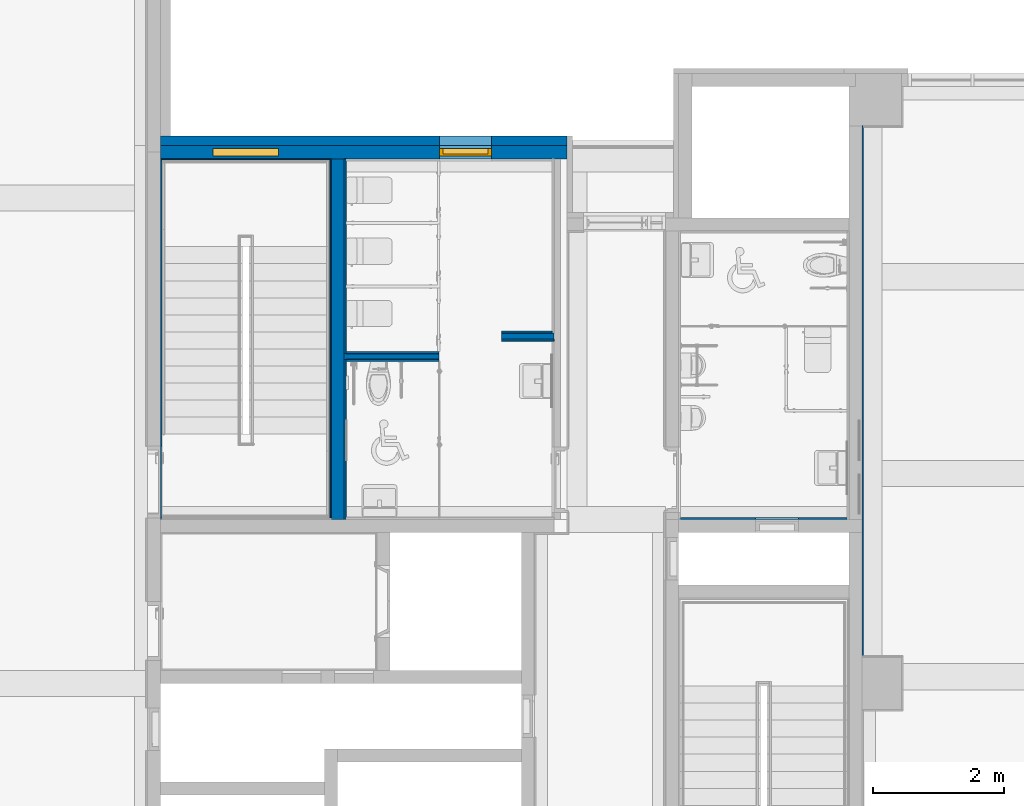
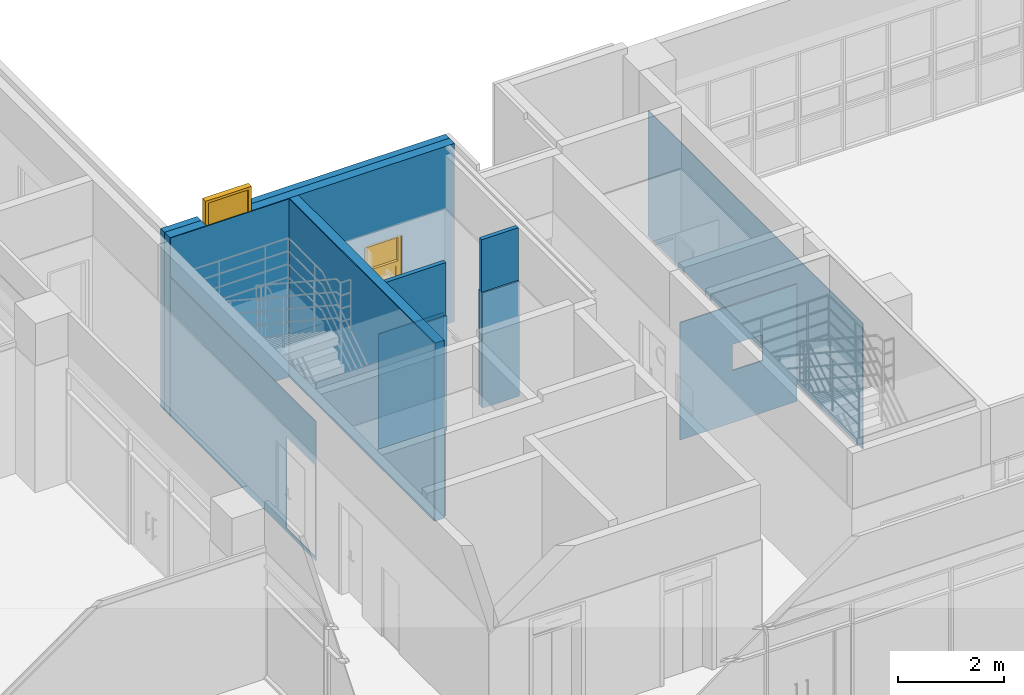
# One storey, part 54 of 76: 15 walls, 2 windows, 7 openings.
"""IFC2X3 building model written with IfcOpenShell, lengths in millimetres."""

from ifc_helpers import new_model, entity, si_unit, converted_unit, derived_unit, direction, frame, frame_2d, origin, place, context, subcontext, project, spatial, rectangle, extrude, faceted_brep, source, transform, mapped, material, material_list, layer, layer_set, layer_usage, type_object, type_shapes, element, fill, save


model = new_model("IFC2X3")

# Units and contexts
model_context = context("Model", 3, precision=0.01, world=origin(), true_north=direction((6.123031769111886e-17, 1.0)))
body_context = subcontext(model_context, "Body", "Model", "MODEL_VIEW")
ifc_project = project(units=[si_unit("LENGTHUNIT", "METRE", prefix="MILLI"), si_unit("AREAUNIT", "SQUARE_METRE"), si_unit("VOLUMEUNIT", "CUBIC_METRE"), converted_unit("PLANEANGLEUNIT", "DEGREE", entity("IfcRatioMeasure", 0.017453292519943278), si_unit("PLANEANGLEUNIT", "RADIAN"), dimensions=[0, 0, 0, 0, 0, 0, 0]), si_unit("MASSUNIT", "GRAM", prefix="KILO"), derived_unit("MASSDENSITYUNIT", [(si_unit("MASSUNIT", "GRAM", prefix="KILO"), 1), (si_unit("LENGTHUNIT", "METRE"), -3)]), derived_unit("MOMENTOFINERTIAUNIT", [(si_unit("LENGTHUNIT", "METRE"), 4)]), si_unit("TIMEUNIT", "SECOND"), si_unit("FREQUENCYUNIT", "HERTZ"), si_unit("THERMODYNAMICTEMPERATUREUNIT", "DEGREE_CELSIUS"), derived_unit("THERMALTRANSMITTANCEUNIT", [(si_unit("MASSUNIT", "GRAM", prefix="KILO"), 1), (si_unit("THERMODYNAMICTEMPERATUREUNIT", "KELVIN"), -1), (si_unit("TIMEUNIT", "SECOND"), -3)]), derived_unit("VOLUMETRICFLOWRATEUNIT", [(si_unit("LENGTHUNIT", "METRE"), 3), (si_unit("TIMEUNIT", "SECOND"), -1)]), derived_unit("MASSFLOWRATEUNIT", [(si_unit("MASSUNIT", "GRAM", prefix="KILO"), 1), (si_unit("TIMEUNIT", "SECOND"), -1)]), derived_unit("ROTATIONALFREQUENCYUNIT", [(si_unit("TIMEUNIT", "SECOND"), -1)]), si_unit("ELECTRICCURRENTUNIT", "AMPERE"), si_unit("ELECTRICVOLTAGEUNIT", "VOLT"), si_unit("POWERUNIT", "WATT"), si_unit("FORCEUNIT", "NEWTON", prefix="KILO"), si_unit("ILLUMINANCEUNIT", "LUX"), si_unit("LUMINOUSFLUXUNIT", "LUMEN"), si_unit("LUMINOUSINTENSITYUNIT", "CANDELA"), derived_unit("USERDEFINED", [(si_unit("MASSUNIT", "GRAM", prefix="KILO"), -1), (si_unit("LENGTHUNIT", "METRE"), -2), (si_unit("TIMEUNIT", "SECOND"), 3), (si_unit("LUMINOUSFLUXUNIT", "LUMEN"), 1)]), derived_unit("SOUNDPOWERUNIT", [(si_unit("MASSUNIT", "GRAM", prefix="KILO"), 1), (si_unit("LENGTHUNIT", "METRE"), 2), (si_unit("TIMEUNIT", "SECOND"), -3)]), derived_unit("SOUNDPRESSUREUNIT", [(si_unit("MASSUNIT", "GRAM", prefix="KILO"), 1), (si_unit("LENGTHUNIT", "METRE"), -1), (si_unit("TIMEUNIT", "SECOND"), -2)]), derived_unit("LINEARVELOCITYUNIT", [(si_unit("LENGTHUNIT", "METRE"), 1), (si_unit("TIMEUNIT", "SECOND"), -1)]), si_unit("PRESSUREUNIT", "PASCAL"), derived_unit("USERDEFINED", [(si_unit("LENGTHUNIT", "METRE"), -2), (si_unit("MASSUNIT", "GRAM", prefix="KILO"), 1), (si_unit("TIMEUNIT", "SECOND"), -2)]), derived_unit("LINEARFORCEUNIT", [(si_unit("MASSUNIT", "GRAM", prefix="KILO"), 1), (si_unit("LENGTHUNIT", "METRE"), 1), (si_unit("TIMEUNIT", "SECOND"), -2), (si_unit("LENGTHUNIT", "METRE"), -1)]), derived_unit("PLANARFORCEUNIT", [(si_unit("MASSUNIT", "GRAM", prefix="KILO"), 1), (si_unit("LENGTHUNIT", "METRE"), 1), (si_unit("TIMEUNIT", "SECOND"), -2), (si_unit("LENGTHUNIT", "METRE"), -2)])], contexts=[model_context])

# Site, building, storey
site_placement = place(None, frame((-14167.972527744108, -657.2125860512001, 0.0)))
site = spatial("IfcSite", under=ifc_project, at=site_placement, Name="Default", CompositionType="ELEMENT")
building_placement = place(site_placement, origin())
building = spatial("IfcBuilding", under=site, at=building_placement, Name="Sample Building", CompositionType="ELEMENT")
storey_placement = place(building_placement, frame((0.0, 0.0, 9300.0)))
storey = spatial("IfcBuildingStorey", under=building, at=storey_placement, Name="지상 3층", CompositionType="ELEMENT", Elevation=9300.000000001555)

# Wall, openings, windows
ifc_material_1 = material(Name="KBIMS-콘크리트")
ifc_layer_1 = layer(ifc_material_1, 200.0)
ifc_layer_set_1 = layer_set([ifc_layer_1], Name="기본 벽:WA111-철근콘크리트구조 벽 200mm_CW1")
ifc_layer_usage_1 = layer_usage(ifc_layer_set_1, "AXIS2", "NEGATIVE", 100.0)
wall_type_1 = type_object("IfcWallType", Name="기본 벽:WA111-철근콘크리트구조 벽 200mm_CW1", PredefinedType="STANDARD", material=ifc_layer_set_1)
wall_1_placement = place(storey_placement, frame((30267.963761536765, 28057.212307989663, -2.297844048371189e-09)))
wall_1 = element("IfcWallStandardCase", 1, at=wall_1_placement, inside=storey, type_object=wall_type_1, material=ifc_layer_usage_1, Name="기본 벽:WA111-철근콘크리트구조 벽 200mm_CW1", ObjectType="기본 벽:WA111-철근콘크리트구조 벽 200mm_CW1", context=body_context, shape_type="SweptSolid", body=[
    extrude(rectangle(XDim=6200.0000366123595, YDim=199.99999999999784, at=frame_2d((3100.0000183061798, 0.0), x_axis=(-1.0, 0.0))), origin(), (0.0, 0.0, 1.0), 4100.000000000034),
])
opening_1_placement = place(wall_1_placement, frame((799.0853912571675, -100.0, 3030.0)))
opening_1 = element("IfcOpeningElement", 2, at=opening_1_placement, cuts=wall_1, Name="WD812-미들창(스테인리스 스틸):WD812-미들창(스테인리스 스틸) 하부개폐 1000x1600mm:1", ObjectType="Opening", context=body_context, shape_type="SweptSolid", body=[
    extrude(rectangle(XDim=1600.0000000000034, YDim=999.9999999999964, at=frame_2d((800.0000000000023, 499.9999999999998), x_axis=(1.0, 0.0))), frame((0.0, 0.0, 0.0), z_axis=(0.0, 1.0, 0.0), x_axis=(0.0, 0.0, 1.0)), (0.0, 0.0, 1.0), 200.0),
])
opening_2_placement = place(wall_1_placement, frame((5050.008729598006, 100.0, 1200.0)))
opening_2 = element("IfcOpeningElement", 3, at=opening_2_placement, cuts=wall_1, Name="WD812-미들창(스테인리스 스틸):WD812-미들창(스테인리스 스틸) 하부개폐 800x1200mm:1", ObjectType="Opening", context=body_context, shape_type="SweptSolid", body=[
    extrude(rectangle(XDim=1200.000000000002, YDim=799.9999999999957, at=frame_2d((600.0000000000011, 399.99999999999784), x_axis=(1.0, 0.0))), frame((0.0, 0.0, 0.0), z_axis=(0.0, -1.0, 0.0), x_axis=(0.0, 0.0, 1.0)), (0.0, 0.0, 1.0), 200.0),
])
ifc_material_2 = material(Name="KBIMS-스테인리스 스틸")
ifc_material_3 = material(Name="KBIMS-유리")
ifc_material_list_1 = material_list([ifc_material_2, ifc_material_3, ifc_material_2, ifc_material_2, ifc_material_3])
ifc_material_list_2 = material_list([ifc_material_2, ifc_material_3, ifc_material_2, ifc_material_2, ifc_material_3])
window_style_1 = type_object("IfcWindowStyle", Name="WD812-미들창(스테인리스 스틸):WD812-미들창(스테인리스 스틸) 하부개폐 1000x1600mm", ConstructionType="NOTDEFINED", OperationType="NOTDEFINED", ParameterTakesPrecedence=False, Sizeable=False, material=ifc_material_list_2)
shared_shape_1 = source(origin(), body_context, "Body", "Brep", [
    faceted_brep([(60.0, 40.0, 540.0), (60.0, 160.0, 540.0), (940.0, 160.0, 540.0), (940.0, 40.0, 540.0), (0.0, 160.0, 600.0), (0.0, 40.0, 600.0), (60.0, 40.0, 600.0), (940.0, 40.0, 600.0), (1000.0, 40.0, 600.0), (1000.0, 160.0, 600.0), (940.0, 160.0, 600.0), (60.0, 160.0, 600.0), (940.0, 160.0, 60.0), (940.0, 40.0, 60.0), (1000.0, 40.0, 0.0), (1000.0, 160.0, 0.0), (60.0, 160.0, 60.0), (60.0, 40.0, 60.0), (0.0, 40.0, 0.0), (0.0, 160.0, 0.0)], [[[0, 1, 2, 3]], [[4, 5, 6, 7, 8, 9, 10, 11]], [[3, 2, 12, 13]], [[9, 8, 14, 15]], [[13, 12, 16, 17]], [[15, 14, 18, 19]], [[17, 16, 1, 0]], [[3, 13, 17, 0], [5, 18, 14, 8, 7, 6]], [[19, 18, 5, 4]], [[1, 16, 12, 2], [9, 15, 19, 4, 11, 10]]], outer=[[True], [True], [True], [True], [True], [True], [True], [False, True], [True], [False, True]]),
    faceted_brep([(900.0, 151.0, 500.0), (100.0, 151.0, 500.0), (100.0, 139.0, 500.0), (900.0, 139.0, 500.0), (900.0, 151.0, 100.0), (900.0, 139.0, 100.0), (100.0, 139.0, 100.0), (100.0, 151.0, 100.0)], [[[0, 1, 2, 3]], [[4, 5, 6, 7]], [[1, 0, 4, 7]], [[2, 1, 7, 6]], [[3, 2, 6, 5]], [[0, 3, 5, 4]]]),
    faceted_brep([(890.0, 130.0, 490.0), (890.0, 130.0, 110.0), (110.0, 130.0, 110.0), (110.0, 130.0, 490.0), (60.0, 130.0, 540.0), (60.0, 130.0, 60.0), (940.0, 130.0, 60.0), (940.0, 130.0, 540.0), (110.0, 139.0, 110.0), (110.0, 139.0, 490.0), (900.0, 139.0, 500.0), (900.0, 139.0, 100.0), (100.0, 139.0, 100.0), (100.0, 139.0, 500.0), (890.0, 139.0, 110.0), (890.0, 139.0, 490.0), (100.0, 151.0, 100.0), (100.0, 151.0, 500.0), (890.0, 151.0, 490.0), (890.0, 151.0, 110.0), (110.0, 151.0, 110.0), (110.0, 151.0, 490.0), (900.0, 151.0, 100.0), (900.0, 151.0, 500.0), (110.0, 160.0, 110.0), (110.0, 160.0, 490.0), (940.0, 160.0, 60.0), (60.0, 160.0, 60.0), (890.0, 160.0, 490.0), (60.0, 160.0, 540.0), (940.0, 160.0, 540.0), (890.0, 160.0, 110.0)], [[[0, 1, 2, 3], [4, 5, 6, 7]], [[2, 8, 9, 3]], [[10, 11, 12, 13], [9, 8, 14, 15]], [[12, 16, 17, 13]], [[18, 19, 20, 21], [17, 16, 22, 23]], [[20, 24, 25, 21]], [[26, 6, 5, 27]], [[21, 25, 28, 18]], [[13, 17, 23, 10]], [[3, 9, 15, 0]], [[29, 4, 7, 30]], [[18, 28, 31, 19]], [[10, 23, 22, 11]], [[0, 15, 14, 1]], [[30, 7, 6, 26]], [[19, 31, 24, 20]], [[11, 22, 16, 12]], [[1, 14, 8, 2]], [[27, 5, 4, 29]], [[25, 24, 31, 28], [30, 26, 27, 29]]], outer=[[False, True], [True], [True, False], [True], [False, True], [True], [True], [True], [True], [True], [True], [True], [True], [True], [True], [True], [True], [True], [True], [False, True]]),
    faceted_brep([(60.0, 160.0, 600.0), (60.0, 40.0, 600.0), (0.0, 40.0, 600.0), (0.0, 160.0, 600.0), (60.0, 40.0, 1540.0), (60.0, 160.0, 1540.0), (940.0, 160.0, 1540.0), (940.0, 40.0, 1540.0), (0.0, 160.0, 1600.0), (0.0, 40.0, 1600.0), (1000.0, 40.0, 1600.0), (1000.0, 160.0, 1600.0), (940.0, 160.0, 600.0), (940.0, 40.0, 600.0), (1000.0, 40.0, 600.0), (1000.0, 160.0, 600.0)], [[[0, 1, 2, 3]], [[4, 5, 6, 7]], [[8, 9, 10, 11]], [[7, 6, 12, 13]], [[11, 10, 14, 15]], [[12, 15, 14, 13]], [[1, 0, 5, 4]], [[2, 1, 4, 7, 13, 14, 10, 9]], [[3, 2, 9, 8]], [[0, 3, 8, 11, 15, 12, 6, 5]]]),
    faceted_brep([(940.0, 106.0, 1540.0), (60.0, 106.0, 1540.0), (60.0, 94.0, 1540.0), (940.0, 94.0, 1540.0), (940.0, 106.0, 600.0), (940.0, 94.0, 600.0), (60.0, 94.0, 600.0), (60.0, 106.0, 600.0)], [[[0, 1, 2, 3]], [[4, 5, 6, 7]], [[1, 0, 4, 7]], [[2, 1, 7, 6]], [[3, 2, 6, 5]], [[0, 3, 5, 4]]]),
])
type_shapes(window_style_1, [shared_shape_1])
window_1_placement = place(opening_1_placement, frame((0.0, 0.0, 2.2973836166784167e-09)))
window_1 = element("IfcWindow", 4, at=window_1_placement, inside=storey, type_object=window_style_1, material=ifc_material_list_1, Name="WD812-미들창(스테인리스 스틸):WD812-미들창(스테인리스 스틸) 하부개폐 1000x1600mm", ObjectType="WD812-미들창(스테인리스 스틸):WD812-미들창(스테인리스 스틸) 하부개폐 1000x1600mm", OverallHeight=1600.0000000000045, OverallWidth=999.999999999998, context=body_context, shape_type="MappedRepresentation", body=[
    mapped(shared_shape_1, transform((0.0, 0.0, 0.0), scale=1.0)),
])
fill(opening_1, window_1)
ifc_material_list_3 = material_list([ifc_material_2, ifc_material_3, ifc_material_2, ifc_material_2, ifc_material_3])
ifc_material_list_4 = material_list([ifc_material_2, ifc_material_3, ifc_material_2, ifc_material_2, ifc_material_3])
window_style_2 = type_object("IfcWindowStyle", Name="WD812-미들창(스테인리스 스틸):WD812-미들창(스테인리스 스틸) 하부개폐 800x1200mm", ConstructionType="NOTDEFINED", OperationType="NOTDEFINED", ParameterTakesPrecedence=False, Sizeable=False, material=ifc_material_list_4)
shared_shape_2 = source(origin(), body_context, "Body", "Brep", [
    faceted_brep([(60.0, 40.0, 540.0), (60.0, 160.0, 540.0), (740.0, 160.0, 540.0), (740.0, 40.0, 540.0), (0.0, 160.0, 600.0), (0.0, 40.0, 600.0), (60.0, 40.0, 600.0), (740.0, 40.0, 600.0), (800.0, 40.0, 600.0), (800.0, 160.0, 600.0), (740.0, 160.0, 600.0), (60.0, 160.0, 600.0), (740.0, 160.0, 60.0), (740.0, 40.0, 60.0), (800.0, 40.0, 0.0), (800.0, 160.0, 0.0), (60.0, 160.0, 60.0), (60.0, 40.0, 60.0), (0.0, 40.0, 0.0), (0.0, 160.0, 0.0)], [[[0, 1, 2, 3]], [[4, 5, 6, 7, 8, 9, 10, 11]], [[3, 2, 12, 13]], [[9, 8, 14, 15]], [[13, 12, 16, 17]], [[15, 14, 18, 19]], [[17, 16, 1, 0]], [[3, 13, 17, 0], [5, 18, 14, 8, 7, 6]], [[19, 18, 5, 4]], [[1, 16, 12, 2], [9, 15, 19, 4, 11, 10]]], outer=[[True], [True], [True], [True], [True], [True], [True], [False, True], [True], [False, True]]),
    faceted_brep([(700.0, 151.0, 500.0), (100.0, 151.0, 500.0), (100.0, 139.0, 500.0), (700.0, 139.0, 500.0), (700.0, 151.0, 100.0), (700.0, 139.0, 100.0), (100.0, 139.0, 100.0), (100.0, 151.0, 100.0)], [[[0, 1, 2, 3]], [[4, 5, 6, 7]], [[1, 0, 4, 7]], [[2, 1, 7, 6]], [[3, 2, 6, 5]], [[0, 3, 5, 4]]]),
    faceted_brep([(690.0, 130.0, 490.0), (690.0, 130.0, 110.0), (110.0, 130.0, 110.0), (110.0, 130.0, 490.0), (60.0, 130.0, 540.0), (60.0, 130.0, 60.0), (740.0, 130.0, 60.0), (740.0, 130.0, 540.0), (110.0, 139.0, 110.0), (110.0, 139.0, 490.0), (700.0, 139.0, 500.0), (700.0, 139.0, 100.0), (100.0, 139.0, 100.0), (100.0, 139.0, 500.0), (690.0, 139.0, 110.0), (690.0, 139.0, 490.0), (100.0, 151.0, 100.0), (100.0, 151.0, 500.0), (690.0, 151.0, 490.0), (690.0, 151.0, 110.0), (110.0, 151.0, 110.0), (110.0, 151.0, 490.0), (700.0, 151.0, 100.0), (700.0, 151.0, 500.0), (110.0, 160.0, 110.0), (110.0, 160.0, 490.0), (740.0, 160.0, 60.0), (60.0, 160.0, 60.0), (690.0, 160.0, 490.0), (60.0, 160.0, 540.0), (740.0, 160.0, 540.0), (690.0, 160.0, 110.0)], [[[0, 1, 2, 3], [4, 5, 6, 7]], [[2, 8, 9, 3]], [[10, 11, 12, 13], [9, 8, 14, 15]], [[12, 16, 17, 13]], [[18, 19, 20, 21], [17, 16, 22, 23]], [[20, 24, 25, 21]], [[26, 6, 5, 27]], [[21, 25, 28, 18]], [[13, 17, 23, 10]], [[3, 9, 15, 0]], [[29, 4, 7, 30]], [[18, 28, 31, 19]], [[10, 23, 22, 11]], [[0, 15, 14, 1]], [[30, 7, 6, 26]], [[19, 31, 24, 20]], [[11, 22, 16, 12]], [[1, 14, 8, 2]], [[27, 5, 4, 29]], [[25, 24, 31, 28], [30, 26, 27, 29]]], outer=[[False, True], [True], [True, False], [True], [False, True], [True], [True], [True], [True], [True], [True], [True], [True], [True], [True], [True], [True], [True], [True], [False, True]]),
    faceted_brep([(60.0, 160.0, 600.0), (60.0, 40.0, 600.0), (0.0, 40.0, 600.0), (0.0, 160.0, 600.0), (60.0, 40.0, 1140.0), (60.0, 160.0, 1140.0), (740.0, 160.0, 1140.0), (740.0, 40.0, 1140.0), (0.0, 160.0, 1200.0), (0.0, 40.0, 1200.0), (800.0, 40.0, 1200.0), (800.0, 160.0, 1200.0), (740.0, 160.0, 600.0), (740.0, 40.0, 600.0), (800.0, 40.0, 600.0), (800.0, 160.0, 600.0)], [[[0, 1, 2, 3]], [[4, 5, 6, 7]], [[8, 9, 10, 11]], [[7, 6, 12, 13]], [[11, 10, 14, 15]], [[12, 15, 14, 13]], [[1, 0, 5, 4]], [[2, 1, 4, 7, 13, 14, 10, 9]], [[3, 2, 9, 8]], [[0, 3, 8, 11, 15, 12, 6, 5]]]),
    faceted_brep([(740.0, 106.0, 1140.0), (60.0, 106.0, 1140.0), (60.0, 94.0, 1140.0), (740.0, 94.0, 1140.0), (740.0, 106.0, 600.0), (740.0, 94.0, 600.0), (60.0, 94.0, 600.0), (60.0, 106.0, 600.0)], [[[0, 1, 2, 3]], [[4, 5, 6, 7]], [[1, 0, 4, 7]], [[2, 1, 7, 6]], [[3, 2, 6, 5]], [[0, 3, 5, 4]]]),
])
type_shapes(window_style_2, [shared_shape_2])
window_2_placement = place(opening_2_placement, frame((0.0, 0.0, 2.2973836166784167e-09), z_axis=(0.0, 0.0, 1.0), x_axis=(-1.0, 0.0, 0.0)))
window_2 = element("IfcWindow", 5, at=window_2_placement, inside=storey, type_object=window_style_2, material=ifc_material_list_3, Name="WD812-미들창(스테인리스 스틸):WD812-미들창(스테인리스 스틸) 하부개폐 800x1200mm", ObjectType="WD812-미들창(스테인리스 스틸):WD812-미들창(스테인리스 스틸) 하부개폐 800x1200mm", OverallHeight=1200.0000000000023, OverallWidth=799.9999999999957, context=body_context, shape_type="MappedRepresentation", body=[
    mapped(shared_shape_2, transform((0.0, 0.0, 0.0), scale=1.0)),
])
fill(opening_2, window_2)

# Wall
ifc_layer_usage_2 = layer_usage(ifc_layer_set_1, "AXIS2", "NEGATIVE", 100.0)
wall_2_placement = place(storey_placement, frame((32967.97249113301, 27957.212307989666, -2.297844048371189e-09), z_axis=(0.0, 0.0, 1.0), x_axis=(0.0, -1.0, 0.0)))
element("IfcWallStandardCase", 6, at=wall_2_placement, inside=storey, type_object=wall_type_1, material=ifc_layer_usage_2, Name="기본 벽:WA111-철근콘크리트구조 벽 200mm_CW1", ObjectType="기본 벽:WA111-철근콘크리트구조 벽 200mm_CW1", context=body_context, shape_type="SweptSolid", body=[
    extrude(rectangle(XDim=5499.999996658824, YDim=199.99999999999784, at=frame_2d((2749.999998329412, -4.263256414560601e-14), x_axis=(-1.0, 0.0))), origin(), (0.0, 0.0, 1.0), 4100.000000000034),
])

# Wall, openings
ifc_material_4 = material(Name="WA240-ALC블록벽")
ifc_layer_2 = layer(ifc_material_4, 35.0)
ifc_material_5 = material(Name="WA795-(STEEL)BRACKET")
ifc_layer_3 = layer(ifc_material_5, 65.0)
ifc_material_6 = material(Name="WA821-압출스티로폼 벽 (본드붙임, 비중0.03) 50mm")
ifc_layer_4 = layer(ifc_material_6, 50.0)
ifc_layer_set_2 = layer_set([ifc_layer_2, ifc_layer_3, ifc_layer_4], Name="기본 벽:A2-22-02A-압출스티로폼, BRACKET(STEEL), ALC블록 (150mm)")
ifc_layer_usage_3 = layer_usage(ifc_layer_set_2, "AXIS2", "POSITIVE", -75.0)
wall_type_2 = type_object("IfcWallType", Name="기본 벽:A2-22-02A-압출스티로폼, BRACKET(STEEL), ALC블록 (150mm)", PredefinedType="STANDARD", material=ifc_layer_set_2)
wall_3_placement = place(storey_placement, frame((36467.963798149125, 28232.212307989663, -2.297844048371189e-09), z_axis=(0.0, 0.0, 1.0), x_axis=(-1.0, 0.0, 0.0)))
wall_3 = element("IfcWallStandardCase", 7, at=wall_3_placement, inside=storey, type_object=wall_type_2, material=ifc_layer_usage_3, Name="기본 벽:A2-22-02A-압출스티로폼, BRACKET(STEEL), ALC블록 (150mm)", ObjectType="기본 벽:A2-22-02A-압출스티로폼, BRACKET(STEEL), ALC블록 (150mm)", context=body_context, shape_type="SweptSolid", body=[
    extrude(rectangle(XDim=150.00000000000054, YDim=6200.000036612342, at=frame_2d((3100.000018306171, 0.0), x_axis=(0.0, -1.0))), origin(), (0.0, 0.0, 1.0), 4100.000000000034),
])
opening_3_placement = place(wall_3_placement, origin())
element("IfcOpeningElement", 8, at=opening_3_placement, cuts=wall_3, Name="기본 벽:A2-22-02A-압출스티로폼, BRACKET(STEEL), ALC블록 (150mm)", ObjectType="Opening", context=body_context, shape_type="SweptSolid", body=[
    extrude(rectangle(XDim=1600.0000000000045, YDim=999.999999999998, at=frame_2d((0.0, 0.0), x_axis=(0.0, 1.0))), frame((4900.914645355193, -1249.0, 3830.0), z_axis=(0.0, 1.0, 0.0), x_axis=(-1.0, 0.0, 0.0)), (0.0, 0.0, 1.0), 3048.0),
])
opening_4_placement = place(wall_3_placement, origin())
element("IfcOpeningElement", 9, at=opening_4_placement, cuts=wall_3, Name="기본 벽:A2-22-02A-압출스티로폼, BRACKET(STEEL), ALC블록 (150mm)", ObjectType="Opening", context=body_context, shape_type="SweptSolid", body=[
    extrude(rectangle(XDim=1600.0000000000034, YDim=999.999999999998, at=frame_2d((0.0, 5.684341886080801e-13), x_axis=(0.0, 1.0))), frame((4900.914645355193, -1249.0, -670.0), z_axis=(0.0, 1.0, 0.0), x_axis=(-1.0, 0.0, 0.0)), (0.0, 0.0, 1.0), 3048.0),
])
opening_5_placement = place(wall_3_placement, origin())
element("IfcOpeningElement", 10, at=opening_5_placement, cuts=wall_3, Name="기본 벽:A2-22-02A-압출스티로폼, BRACKET(STEEL), ALC블록 (150mm)", ObjectType="Opening", context=body_context, shape_type="SweptSolid", body=[
    extrude(rectangle(XDim=1200.0000000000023, YDim=799.9999999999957, at=frame_2d((-1.0800249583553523e-12, -2.1600499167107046e-12), x_axis=(1.0, 0.0))), frame((1549.991307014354, -1449.0, 1800.0), z_axis=(0.0, 1.0, 0.0), x_axis=(0.0, 0.0, 1.0)), (0.0, 0.0, 1.0), 3048.0),
])

# Walls
ifc_material_7 = material(Name="KBIMS-시멘트 벽돌")
ifc_layer_5 = layer(ifc_material_7, 90.0)
ifc_layer_set_3 = layer_set([ifc_layer_5], Name="기본 벽:WA211-시멘트벽돌(일반) 벽 (0.5B) 90mm")
ifc_layer_usage_4 = layer_usage(ifc_layer_set_3, "AXIS2", "NEGATIVE", 45.0)
wall_type_3 = type_object("IfcWallType", Name="기본 벽:WA211-시멘트벽돌(일반) 벽 (0.5B) 90mm", PredefinedType="STANDARD", material=ifc_layer_set_3)
wall_4_placement = place(storey_placement, frame((33067.972491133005, 24941.74389776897, -50.0)))
element("IfcWallStandardCase", 11, at=wall_4_placement, inside=storey, type_object=wall_type_3, material=ifc_layer_usage_4, Name="기본 벽:WA211-시멘트벽돌(일반) 벽 (0.5B) 90mm", ObjectType="기본 벽:WA211-시멘트벽돌(일반) 벽 (0.5B) 90mm", context=body_context, shape_type="SweptSolid", body=[
    extrude(rectangle(XDim=1444.9912638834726, YDim=90.0000000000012, at=frame_2d((722.4956319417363, -2.3234747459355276e-12), x_axis=(-1.0, 0.0))), origin(), (0.0, 0.0, 1.0), 3950.0000000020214),
])
ifc_layer_usage_5 = layer_usage(ifc_layer_set_3, "AXIS2", "NEGATIVE", 45.0)
wall_5_placement = place(storey_placement, frame((35467.9637981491, 25252.21230798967, 40.0)))
element("IfcWallStandardCase", 12, at=wall_5_placement, inside=storey, type_object=wall_type_3, material=ifc_layer_usage_5, Name="기본 벽:WA211-시멘트벽돌(일반) 벽 (0.5B) 90mm", ObjectType="기본 벽:WA211-시멘트벽돌(일반) 벽 (0.5B) 90mm", context=body_context, shape_type="SweptSolid", body=[
    extrude(rectangle(XDim=800.0000000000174, YDim=90.0000000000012, at=frame_2d((400.0000000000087, -2.8919089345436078e-12), x_axis=(-1.0, 0.0))), origin(), (0.0, 0.0, 1.0), 3860.0000000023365),
])
ifc_material_8 = material(Name="WA611-수성페인트 (내부) 벽 (3회)")
ifc_layer_6 = layer(ifc_material_8, 1.0)
ifc_material_9 = material(Name="WA551-시멘트모르타르 (내부) 벽 18mm")
ifc_layer_7 = layer(ifc_material_9, 16.0)
ifc_material_10 = material(Name="WA555-콘크리트면정리 벽 (내부)")
ifc_layer_8 = layer(ifc_material_10, 1.0)
ifc_layer_set_4 = layer_set([ifc_layer_6, ifc_layer_7, ifc_layer_8], Name="기본 벽:A1-32-06A-콘크리트면정리, 시멘트모르타르(미장용), 수성페인트(내부) (18mm)")
ifc_layer_usage_6 = layer_usage(ifc_layer_set_4, "AXIS2", "POSITIVE", -9.000000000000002)
wall_type_4 = type_object("IfcWallType", Name="기본 벽:A1-32-06A-콘크리트면정리, 시멘트모르타르(미장용), 수성페인트(내부) (18mm)", PredefinedType="STANDARD", material=ifc_layer_set_4)
wall_6_placement = place(storey_placement, frame((30267.702748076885, 27948.212307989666, 0.0)))
element("IfcWallStandardCase", 13, at=wall_6_placement, inside=storey, type_object=wall_type_4, material=ifc_layer_usage_6, Name="기본 벽:A1-32-06A-콘크리트면정리, 시멘트모르타르(미장용), 수성페인트(내부) (18mm)", ObjectType="기본 벽:A1-32-06A-콘크리트면정리, 시멘트모르타르(미장용), 수성페인트(내부) (18mm)", context=body_context, shape_type="SweptSolid", body=[
    extrude(rectangle(XDim=2582.2697430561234, YDim=18.00000000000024, at=frame_2d((1291.1348715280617, -2.1662671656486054e-12), x_axis=(-1.0, 0.0))), origin(), (0.0, 0.0, 1.0), 4100.000000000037),
])

# Wall, opening
ifc_layer_usage_7 = layer_usage(ifc_layer_set_4, "AXIS2", "POSITIVE", -9.000000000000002)
wall_7_placement = place(storey_placement, frame((30276.702748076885, 22457.21231133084, 0.0), z_axis=(0.0, 0.0, 1.0), x_axis=(0.0, 1.0, 0.0)))
wall_7 = element("IfcWallStandardCase", 14, at=wall_7_placement, inside=storey, type_object=wall_type_4, material=ifc_layer_usage_7, Name="기본 벽:A1-32-06A-콘크리트면정리, 시멘트모르타르(미장용), 수성페인트(내부) (18mm)", ObjectType="기본 벽:A1-32-06A-콘크리트면정리, 시멘트모르타르(미장용), 수성페인트(내부) (18mm)", context=body_context, shape_type="SweptSolid", body=[
    extrude(rectangle(XDim=17.738986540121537, YDim=5481.999996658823, at=frame_2d((1.7738986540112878, -544.5999996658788), x_axis=(1.0, 0.0))), frame((2196.3999986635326, -1.9044053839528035, 0.0), z_axis=(0.0, 0.0, 1.0), x_axis=(0.0, 1.0, 0.0)), (0.0, 0.0, 1.0), 3200.0),
])
opening_6_placement = place(storey_placement, frame((30276.702748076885, 22457.21231133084, 0.0), z_axis=(0.0, 0.0, 1.0), x_axis=(0.0, 1.0, 0.0)))
element("IfcOpeningElement", 15, at=opening_6_placement, cuts=wall_7, Name="기본 벽:A1-32-06A-콘크리트면정리, 시멘트모르타르(미장용), 수성페인트(내부) (18mm):1", ObjectType="Opening", context=body_context, shape_type="SweptSolid", body=[
    extrude(rectangle(XDim=2099.9999999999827, YDim=1100.0000000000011, at=frame_2d((5.684341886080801e-13, 0.0), x_axis=(1.0, 0.0))), frame((569.965316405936, 8.738986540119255, 1130.0), z_axis=(0.0, -1.0, 0.0), x_axis=(0.0, 0.0, -1.0)), (0.0, 0.0, 1.0), 17.73898654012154),
])

# Walls
ifc_layer_usage_8 = layer_usage(ifc_layer_set_4, "AXIS2", "POSITIVE", -9.000000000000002)
wall_8_placement = place(storey_placement, frame((32858.97249113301, 27957.212307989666, 0.0), z_axis=(0.0, 0.0, 1.0), x_axis=(0.0, -1.0, 0.0)))
element("IfcWallStandardCase", 16, at=wall_8_placement, inside=storey, type_object=wall_type_4, material=ifc_layer_usage_8, Name="기본 벽:A1-32-06A-콘크리트면정리, 시멘트모르타르(미장용), 수성페인트(내부) (18mm)", ObjectType="기본 벽:A1-32-06A-콘크리트면정리, 시멘트모르타르(미장용), 수성페인트(내부) (18mm)", context=body_context, shape_type="SweptSolid", body=[
    extrude(rectangle(XDim=5481.999996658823, YDim=18.00000000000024, at=frame_2d((2740.9999983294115, -2.1662671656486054e-12), x_axis=(-1.0, 0.0))), origin(), (0.0, 0.0, 1.0), 4100.000000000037),
])
ifc_layer_usage_9 = layer_usage(ifc_layer_set_4, "AXIS2", "POSITIVE", -9.000000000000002)
wall_9_placement = place(storey_placement, frame((40976.963798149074, 20375.212307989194, 80.0), z_axis=(0.0, 0.0, 1.0), x_axis=(0.0, 1.0, 0.0)))
element("IfcWallStandardCase", 17, at=wall_9_placement, inside=storey, type_object=wall_type_4, material=ifc_layer_usage_9, Name="기본 벽:A1-32-06A-콘크리트면정리, 시멘트모르타르(미장용), 수성페인트(내부) (18mm)", ObjectType="기본 벽:A1-32-06A-콘크리트면정리, 시멘트모르타르(미장용), 수성페인트(내부) (18mm)", context=body_context, shape_type="SweptSolid", body=[
    extrude(rectangle(XDim=8082.000000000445, YDim=18.00000000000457, at=frame_2d((4041.0000000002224, -1.318944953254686e-12), x_axis=(-1.0, 0.0))), origin(), (0.0, 0.0, 1.0), 2899.999999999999),
])
ifc_material_11 = material(Name="WA352-도기질타일 벽 200x200")
ifc_layer_9 = layer(ifc_material_11, 8.0)
ifc_material_12 = material(Name="WA551-시멘트모르타르 (내부) 벽 22mm")
ifc_layer_10 = layer(ifc_material_12, 22.0)
ifc_layer_set_5 = layer_set([ifc_layer_9, ifc_layer_10], Name="기본 벽:A1-33-01B-시멘트 모르타르, 도기질타일 (30mm)")
ifc_layer_usage_10 = layer_usage(ifc_layer_set_5, "AXIS2", "NEGATIVE", 15.0)
wall_type_5 = type_object("IfcWallType", Name="기본 벽:A1-33-01B-시멘트 모르타르, 도기질타일 (30mm)", PredefinedType="STANDARD", material=ifc_layer_set_5)
wall_10_placement = place(storey_placement, frame((33082.98122724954, 22457.212311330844, 40.0), z_axis=(0.0, 0.0, 1.0), x_axis=(0.0, 1.0, 0.0)))
element("IfcWallStandardCase", 18, at=wall_10_placement, inside=storey, type_object=wall_type_5, material=ifc_layer_usage_10, Name="기본 벽:A1-33-01B-시멘트 모르타르, 도기질타일 (30mm)", ObjectType="기본 벽:A1-33-01B-시멘트 모르타르, 도기질타일 (30mm)", context=body_context, shape_type="SweptSolid", body=[
    extrude(rectangle(XDim=5499.999996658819, YDim=30.000000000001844, at=frame_2d((2749.9999983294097, -2.495781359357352e-13), x_axis=(-1.0, 0.0))), origin(), (0.0, 0.0, 1.0), 2649.9999999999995),
])
ifc_layer_usage_11 = layer_usage(ifc_layer_set_5, "AXIS2", "NEGATIVE", 15.0)
wall_11_placement = place(storey_placement, frame((33097.98122724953, 24881.743897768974, 40.0)))
element("IfcWallStandardCase", 19, at=wall_11_placement, inside=storey, type_object=wall_type_5, material=ifc_layer_usage_11, Name="기본 벽:A1-33-01B-시멘트 모르타르, 도기질타일 (30mm)", ObjectType="기본 벽:A1-33-01B-시멘트 모르타르, 도기질타일 (30mm)", context=body_context, shape_type="SweptSolid", body=[
    extrude(rectangle(XDim=1414.9825277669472, YDim=30.000000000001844, at=frame_2d((707.4912638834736, -8.970602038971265e-14), x_axis=(-1.0, 0.0))), origin(), (0.0, 0.0, 1.0), 2649.9999999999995),
])
ifc_layer_usage_12 = layer_usage(ifc_layer_set_5, "AXIS2", "POSITIVE", -15.0)
wall_12_placement = place(storey_placement, frame((33097.98122724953, 25001.74389776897, 40.0)))
element("IfcWallStandardCase", 20, at=wall_12_placement, inside=storey, type_object=wall_type_5, material=ifc_layer_usage_12, Name="기본 벽:A1-33-01B-시멘트 모르타르, 도기질타일 (30mm)", ObjectType="기본 벽:A1-33-01B-시멘트 모르타르, 도기질타일 (30mm)", context=body_context, shape_type="SweptSolid", body=[
    extrude(rectangle(XDim=1414.9825277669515, YDim=30.000000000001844, at=frame_2d((707.4912638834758, 0.0), x_axis=(-1.0, 0.0))), origin(), (0.0, 0.0, 1.0), 2649.9999999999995),
])
ifc_layer_usage_13 = layer_usage(ifc_layer_set_5, "AXIS2", "POSITIVE", -15.0)
wall_13_placement = place(storey_placement, frame((35467.98127038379, 25312.21230966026, 40.0)))
element("IfcWallStandardCase", 21, at=wall_13_placement, inside=storey, type_object=wall_type_5, material=ifc_layer_usage_13, Name="기본 벽:A1-33-01B-시멘트 모르타르, 도기질타일 (30mm)", ObjectType="기본 벽:A1-33-01B-시멘트 모르타르, 도기질타일 (30mm)", context=body_context, shape_type="SweptSolid", body=[
    extrude(rectangle(XDim=769.9825277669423, YDim=30.000000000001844, at=frame_2d((384.99126388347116, -9.876544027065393e-13), x_axis=(-1.0, 0.0))), origin(), (0.0, 0.0, 1.0), 2649.9999999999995),
])
ifc_layer_usage_14 = layer_usage(ifc_layer_set_5, "AXIS2", "NEGATIVE", 15.0)
wall_14_placement = place(storey_placement, frame((35467.98127038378, 25192.21230966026, 40.0)))
element("IfcWallStandardCase", 22, at=wall_14_placement, inside=storey, type_object=wall_type_5, material=ifc_layer_usage_14, Name="기본 벽:A1-33-01B-시멘트 모르타르, 도기질타일 (30mm)", ObjectType="기본 벽:A1-33-01B-시멘트 모르타르, 도기질타일 (30mm)", context=body_context, shape_type="SweptSolid", body=[
    extrude(rectangle(XDim=799.9825277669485, YDim=30.000000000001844, at=frame_2d((399.99126388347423, -9.920952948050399e-13), x_axis=(-1.0, 0.0))), origin(), (0.0, 0.0, 1.0), 2649.9999999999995),
])

# Wall, opening
ifc_layer_usage_15 = layer_usage(ifc_layer_set_5, "AXIS2", "NEGATIVE", 15.0)
wall_15_placement = place(storey_placement, frame((40737.96379815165, 22472.27751121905, 0.0), z_axis=(0.0, 0.0, 1.0), x_axis=(-1.0, 0.0, 0.0)))
wall_15 = element("IfcWallStandardCase", 23, at=wall_15_placement, inside=storey, type_object=wall_type_5, material=ifc_layer_usage_15, Name="기본 벽:A1-33-01B-시멘트 모르타르, 도기질타일 (30mm)", ObjectType="기본 벽:A1-33-01B-시멘트 모르타르, 도기질타일 (30mm)", context=body_context, shape_type="SweptSolid", body=[
    extrude(rectangle(XDim=2540.000000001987, YDim=30.000000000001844, at=frame_2d((1270.0000000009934, 0.0), x_axis=(-1.0, 0.0))), origin(), (0.0, 0.0, 1.0), 2700.0000000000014),
])
opening_7_placement = place(wall_15_placement, origin())
element("IfcOpeningElement", 24, at=opening_7_placement, cuts=wall_15, Name="기본 벽:A1-33-01B-시멘트 모르타르, 도기질타일 (30mm)", ObjectType="Opening", context=body_context, shape_type="SweptSolid", body=[
    extrude(rectangle(XDim=600.0, YDim=649.9999999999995, at=frame_2d((1.0800249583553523e-12, -4.348521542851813e-12), x_axis=(1.0, 0.0))), frame((1069.991397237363, -1308.934787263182, 1500.0), z_axis=(0.0, 1.0, 0.0), x_axis=(0.0, 0.0, 1.0)), (0.0, 0.0, 1.0), 3048.0),
])

save(model, "model.ifc")
